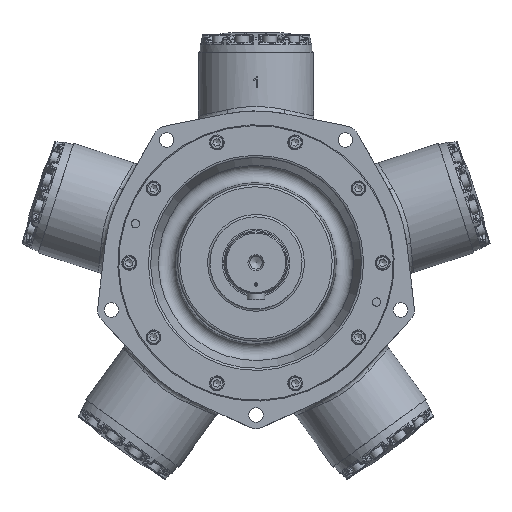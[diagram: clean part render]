
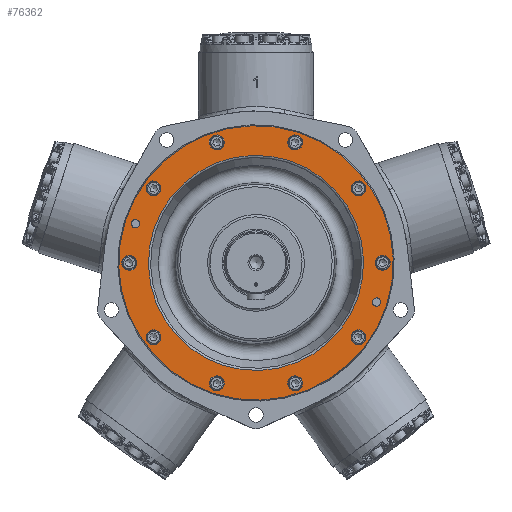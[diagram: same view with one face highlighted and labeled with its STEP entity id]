
A CAD part, top view. The second image highlights one B-rep face of the part: STEP entity #76362.
In plain terms, the highlighted planar face has unit normal (0, 0, 1).
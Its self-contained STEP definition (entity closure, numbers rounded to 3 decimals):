
#2836=FACE_BOUND('',#18007,.T.);
#2837=FACE_BOUND('',#18008,.T.);
#2838=FACE_BOUND('',#18009,.T.);
#2839=FACE_BOUND('',#18010,.T.);
#2840=FACE_BOUND('',#18011,.T.);
#2841=FACE_BOUND('',#18012,.T.);
#2842=FACE_BOUND('',#18013,.T.);
#2843=FACE_BOUND('',#18014,.T.);
#2844=FACE_BOUND('',#18015,.T.);
#2845=FACE_BOUND('',#18016,.T.);
#2846=FACE_BOUND('',#18017,.T.);
#2847=FACE_BOUND('',#18018,.T.);
#2848=FACE_BOUND('',#18019,.T.);
#8861=CIRCLE('',#81729,148.273);
#8873=CIRCLE('',#81749,189.179);
#8874=CIRCLE('',#81750,5.664);
#8875=CIRCLE('',#81751,5.664);
#8876=CIRCLE('',#81752,10.319);
#8877=CIRCLE('',#81753,10.319);
#8878=CIRCLE('',#81754,10.319);
#8879=CIRCLE('',#81755,10.319);
#8880=CIRCLE('',#81756,10.319);
#8881=CIRCLE('',#81757,10.319);
#8882=CIRCLE('',#81758,10.319);
#8883=CIRCLE('',#81759,10.319);
#8884=CIRCLE('',#81760,10.319);
#8885=CIRCLE('',#81761,10.319);
#13167=FACE_OUTER_BOUND('',#18006,.T.);
#18006=EDGE_LOOP('',(#53902));
#18007=EDGE_LOOP('',(#53903));
#18008=EDGE_LOOP('',(#53904));
#18009=EDGE_LOOP('',(#53905));
#18010=EDGE_LOOP('',(#53906));
#18011=EDGE_LOOP('',(#53907));
#18012=EDGE_LOOP('',(#53908));
#18013=EDGE_LOOP('',(#53909));
#18014=EDGE_LOOP('',(#53910));
#18015=EDGE_LOOP('',(#53911));
#18016=EDGE_LOOP('',(#53912));
#18017=EDGE_LOOP('',(#53913));
#18018=EDGE_LOOP('',(#53914));
#18019=EDGE_LOOP('',(#53915));
#30608=VERTEX_POINT('',#147953);
#30618=VERTEX_POINT('',#147987);
#30619=VERTEX_POINT('',#147989);
#30620=VERTEX_POINT('',#147991);
#30621=VERTEX_POINT('',#147993);
#30622=VERTEX_POINT('',#147995);
#30623=VERTEX_POINT('',#147997);
#30624=VERTEX_POINT('',#147999);
#30625=VERTEX_POINT('',#148001);
#30626=VERTEX_POINT('',#148003);
#30627=VERTEX_POINT('',#148005);
#30628=VERTEX_POINT('',#148007);
#30629=VERTEX_POINT('',#148009);
#30630=VERTEX_POINT('',#148011);
#38845=EDGE_CURVE('',#30608,#30608,#8861,.T.);
#38860=EDGE_CURVE('',#30618,#30618,#8873,.T.);
#38861=EDGE_CURVE('',#30619,#30619,#8874,.T.);
#38862=EDGE_CURVE('',#30620,#30620,#8875,.T.);
#38863=EDGE_CURVE('',#30621,#30621,#8876,.T.);
#38864=EDGE_CURVE('',#30622,#30622,#8877,.T.);
#38865=EDGE_CURVE('',#30623,#30623,#8878,.T.);
#38866=EDGE_CURVE('',#30624,#30624,#8879,.T.);
#38867=EDGE_CURVE('',#30625,#30625,#8880,.T.);
#38868=EDGE_CURVE('',#30626,#30626,#8881,.T.);
#38869=EDGE_CURVE('',#30627,#30627,#8882,.T.);
#38870=EDGE_CURVE('',#30628,#30628,#8883,.T.);
#38871=EDGE_CURVE('',#30629,#30629,#8884,.T.);
#38872=EDGE_CURVE('',#30630,#30630,#8885,.T.);
#53902=ORIENTED_EDGE('',*,*,#38860,.F.);
#53903=ORIENTED_EDGE('',*,*,#38861,.T.);
#53904=ORIENTED_EDGE('',*,*,#38862,.T.);
#53905=ORIENTED_EDGE('',*,*,#38863,.T.);
#53906=ORIENTED_EDGE('',*,*,#38864,.T.);
#53907=ORIENTED_EDGE('',*,*,#38865,.T.);
#53908=ORIENTED_EDGE('',*,*,#38866,.T.);
#53909=ORIENTED_EDGE('',*,*,#38867,.T.);
#53910=ORIENTED_EDGE('',*,*,#38868,.T.);
#53911=ORIENTED_EDGE('',*,*,#38869,.T.);
#53912=ORIENTED_EDGE('',*,*,#38870,.T.);
#53913=ORIENTED_EDGE('',*,*,#38871,.T.);
#53914=ORIENTED_EDGE('',*,*,#38872,.T.);
#53915=ORIENTED_EDGE('',*,*,#38845,.F.);
#69404=PLANE('',#81748);
#76362=ADVANCED_FACE('',(#13167,#2836,#2837,#2838,#2839,#2840,#2841,#2842,
#2843,#2844,#2845,#2846,#2847,#2848),#69404,.T.);
#81729=AXIS2_PLACEMENT_3D('',#147955,#91534,#91535);
#81748=AXIS2_PLACEMENT_3D('',#147986,#91575,#91576);
#81749=AXIS2_PLACEMENT_3D('',#147988,#91577,#91578);
#81750=AXIS2_PLACEMENT_3D('',#147990,#91579,#91580);
#81751=AXIS2_PLACEMENT_3D('',#147992,#91581,#91582);
#81752=AXIS2_PLACEMENT_3D('',#147994,#91583,#91584);
#81753=AXIS2_PLACEMENT_3D('',#147996,#91585,#91586);
#81754=AXIS2_PLACEMENT_3D('',#147998,#91587,#91588);
#81755=AXIS2_PLACEMENT_3D('',#148000,#91589,#91590);
#81756=AXIS2_PLACEMENT_3D('',#148002,#91591,#91592);
#81757=AXIS2_PLACEMENT_3D('',#148004,#91593,#91594);
#81758=AXIS2_PLACEMENT_3D('',#148006,#91595,#91596);
#81759=AXIS2_PLACEMENT_3D('',#148008,#91597,#91598);
#81760=AXIS2_PLACEMENT_3D('',#148010,#91599,#91600);
#81761=AXIS2_PLACEMENT_3D('',#148012,#91601,#91602);
#91534=DIRECTION('center_axis',(0.,0.,
1.));
#91535=DIRECTION('ref_axis',(-0.951,0.309,0.));
#91575=DIRECTION('center_axis',(0.,0.,
1.));
#91576=DIRECTION('ref_axis',(-0.309,-0.951,0.));
#91577=DIRECTION('center_axis',(0.,0.,
-1.));
#91578=DIRECTION('ref_axis',(-0.951,0.309,0.));
#91579=DIRECTION('center_axis',(0.,0.,
-1.));
#91580=DIRECTION('ref_axis',(-0.309,-0.951,0.));
#91581=DIRECTION('center_axis',(0.,0.,
-1.));
#91582=DIRECTION('ref_axis',(-0.309,-0.951,0.));
#91583=DIRECTION('center_axis',(0.,0.,
-1.));
#91584=DIRECTION('ref_axis',(0.809,0.588,0.));
#91585=DIRECTION('center_axis',(0.,0.,
-1.));
#91586=DIRECTION('ref_axis',(1.,0.,0.));
#91587=DIRECTION('center_axis',(0.,0.,
-1.));
#91588=DIRECTION('ref_axis',(0.809,-0.588,0.));
#91589=DIRECTION('center_axis',(0.,0.,
-1.));
#91590=DIRECTION('ref_axis',(0.309,-0.951,0.));
#91591=DIRECTION('center_axis',(0.,0.,
-1.));
#91592=DIRECTION('ref_axis',(-0.309,-0.951,0.));
#91593=DIRECTION('center_axis',(0.,0.,
-1.));
#91594=DIRECTION('ref_axis',(-0.809,-0.588,0.));
#91595=DIRECTION('center_axis',(0.,0.,
-1.));
#91596=DIRECTION('ref_axis',(-1.,0.,0.));
#91597=DIRECTION('center_axis',(0.,0.,
-1.));
#91598=DIRECTION('ref_axis',(-0.809,0.588,0.));
#91599=DIRECTION('center_axis',(0.,0.,
-1.));
#91600=DIRECTION('ref_axis',(-0.309,0.951,0.));
#91601=DIRECTION('center_axis',(0.,0.,
-1.));
#91602=DIRECTION('ref_axis',(0.309,0.951,0.));
#147953=CARTESIAN_POINT('',(45.819,141.016,19.664));
#147955=CARTESIAN_POINT('Origin',(0.,0.,
19.664));
#147986=CARTESIAN_POINT('Origin',(161.549,-52.49,19.664));
#147987=CARTESIAN_POINT('',(179.92,-58.459,19.664));
#147988=CARTESIAN_POINT('Origin',(0.,0.,
19.664));
#147989=CARTESIAN_POINT('',(167.829,-48.575,19.664));
#147990=CARTESIAN_POINT('Origin',(166.078,-53.962,19.664));
#147991=CARTESIAN_POINT('',(-164.328,59.349,19.664));
#147992=CARTESIAN_POINT('Origin',(-166.078,53.962,19.664));
#147993=CARTESIAN_POINT('',(-149.623,-108.707,19.664));
#147994=CARTESIAN_POINT('Origin',(-141.275,-102.642,19.664));
#147995=CARTESIAN_POINT('',(-184.944,0.,19.664));
#147996=CARTESIAN_POINT('Origin',(-174.625,0.,19.664));
#147997=CARTESIAN_POINT('',(-149.623,108.707,19.664));
#147998=CARTESIAN_POINT('Origin',(-141.275,102.642,19.664));
#147999=CARTESIAN_POINT('',(-57.151,175.892,19.664));
#148000=CARTESIAN_POINT('Origin',(-53.962,166.078,19.664));
#148001=CARTESIAN_POINT('',(57.151,175.892,19.664));
#148002=CARTESIAN_POINT('Origin',(53.962,166.078,19.664));
#148003=CARTESIAN_POINT('',(149.623,108.707,19.664));
#148004=CARTESIAN_POINT('Origin',(141.275,102.642,19.664));
#148005=CARTESIAN_POINT('',(184.944,0.,19.664));
#148006=CARTESIAN_POINT('Origin',(174.625,0.,19.664));
#148007=CARTESIAN_POINT('',(149.623,-108.707,19.664));
#148008=CARTESIAN_POINT('Origin',(141.275,-102.642,19.664));
#148009=CARTESIAN_POINT('',(57.151,-175.892,19.664));
#148010=CARTESIAN_POINT('Origin',(53.962,-166.078,19.664));
#148011=CARTESIAN_POINT('',(-57.151,-175.892,19.664));
#148012=CARTESIAN_POINT('Origin',(-53.962,-166.078,19.664));
